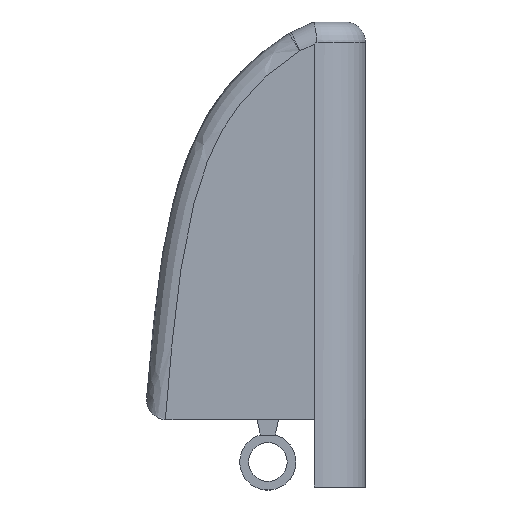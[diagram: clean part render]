
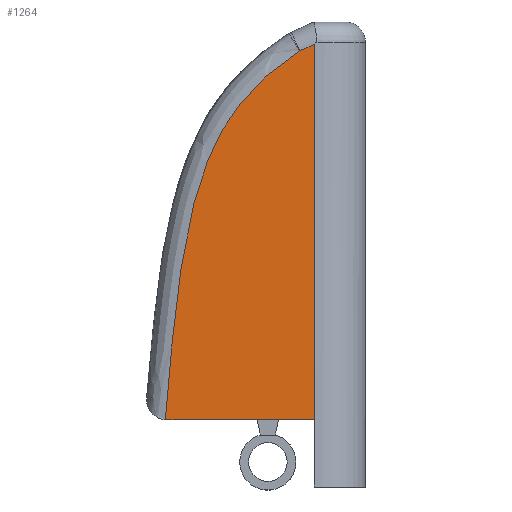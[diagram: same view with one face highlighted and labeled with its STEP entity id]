
A CAD part, front view. The second image highlights one B-rep face of the part: STEP entity #1264.
In plain terms, the highlighted planar face has unit normal (0, -1, 0).
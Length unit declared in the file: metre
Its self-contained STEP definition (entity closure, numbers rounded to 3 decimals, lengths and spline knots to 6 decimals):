
#48=B_SPLINE_CURVE_WITH_KNOTS('',3,(#2073,#2074,#2075,#2076,#2077,#2078,
#2079,#2080,#2081,#2082),.UNSPECIFIED.,.F.,.F.,(4,1,1,1,1,1,1,4),(0.,
0.005111,0.010222,0.015334,0.020445,
0.025556,0.030667,0.040889),.UNSPECIFIED.);
#58=LINE('',#1806,#187);
#120=LINE('',#2086,#249);
#121=LINE('',#2088,#250);
#187=VECTOR('',#1451,1.);
#249=VECTOR('',#1579,1.);
#250=VECTOR('',#1580,1.);
#423=ORIENTED_EDGE('',*,*,#793,.T.);
#424=ORIENTED_EDGE('',*,*,#794,.T.);
#425=ORIENTED_EDGE('',*,*,#703,.F.);
#426=ORIENTED_EDGE('',*,*,#795,.T.);
#427=ORIENTED_EDGE('',*,*,#796,.T.);
#703=EDGE_CURVE('',#896,#897,#58,.T.);
#793=EDGE_CURVE('',#972,#973,#48,.T.);
#794=EDGE_CURVE('',#973,#897,#1037,.F.);
#795=EDGE_CURVE('',#896,#974,#120,.F.);
#796=EDGE_CURVE('',#974,#972,#121,.T.);
#896=VERTEX_POINT('',#1805);
#897=VERTEX_POINT('',#1807);
#972=VERTEX_POINT('',#2083);
#973=VERTEX_POINT('',#2084);
#974=VERTEX_POINT('',#2087);
#1037=CIRCLE('',#1366,0.002044);
#1079=EDGE_LOOP('',(#423,#424,#425,#426,#427));
#1152=FACE_BOUND('',#1079,.T.);
#1216=PLANE('',#1365);
#1264=ADVANCED_FACE('',(#1152),#1216,.F.);
#1365=AXIS2_PLACEMENT_3D('',#2072,#1575,#1576);
#1366=AXIS2_PLACEMENT_3D('',#2085,#1577,#1578);
#1451=DIRECTION('',(-1.,0.,0.));
#1575=DIRECTION('',(0.,1.,0.));
#1576=DIRECTION('',(0.,0.,1.));
#1577=DIRECTION('',(0.,1.,0.));
#1578=DIRECTION('',(0.,0.,1.));
#1579=DIRECTION('',(0.,0.,-1.));
#1580=DIRECTION('',(-0.911,0.,-0.412));
#1805=CARTESIAN_POINT('',(0.028508,-0.012972,0.141281));
#1806=CARTESIAN_POINT('',(0.033617,-0.012972,0.141281));
#1807=CARTESIAN_POINT('',(0.013798,-0.012972,0.141281));
#2072=CARTESIAN_POINT('',(0.033617,-0.012972,0.15967));
#2073=CARTESIAN_POINT('',(0.027044,-0.012972,0.178136));
#2074=CARTESIAN_POINT('',(0.025579,-0.012972,0.177219));
#2075=CARTESIAN_POINT('',(0.022902,-0.012972,0.175117));
#2076=CARTESIAN_POINT('',(0.019566,-0.012972,0.171105));
#2077=CARTESIAN_POINT('',(0.017445,-0.012972,0.166439));
#2078=CARTESIAN_POINT('',(0.016062,-0.012972,0.161471));
#2079=CARTESIAN_POINT('',(0.015169,-0.012972,0.156476));
#2080=CARTESIAN_POINT('',(0.01434,-0.012972,0.149746));
#2081=CARTESIAN_POINT('',(0.013899,-0.012972,0.144674));
#2082=CARTESIAN_POINT('',(0.013634,-0.012972,0.141287));
#2083=CARTESIAN_POINT('',(0.027044,-0.012972,0.178136));
#2084=CARTESIAN_POINT('',(0.013634,-0.012972,0.141287));
#2085=CARTESIAN_POINT('',(0.013798,-0.012972,0.143325));
#2086=CARTESIAN_POINT('',(0.028508,-0.012972,0.172849));
#2087=CARTESIAN_POINT('',(0.028508,-0.012972,0.178798));
#2088=CARTESIAN_POINT('',(0.025565,-0.012972,0.177467));
